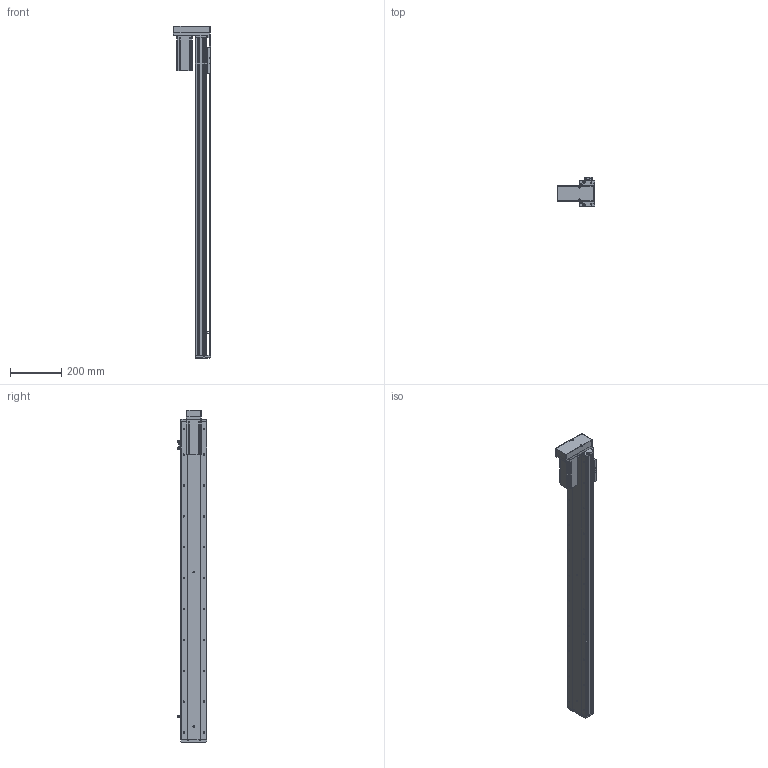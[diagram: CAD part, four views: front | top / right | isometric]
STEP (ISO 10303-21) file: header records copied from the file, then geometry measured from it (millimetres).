
FILE_DESCRIPTION (( 'STEP AP214' ), '1' );
FILE_NAME ('KSD100S-S1050-MD-CM.STEP', '2019-08-30T03:48:13', ( '微软用户' ), ( '微软中国' ), 'SwSTEP 2.0', 'SolidWorks 2014', '' );
FILE_SCHEMA (( 'AUTOMOTIVE_DESIGN' ));
Length unit declared in the file: millimetre
Products named in the file (11): 悵誘欶奻狟殏; 100宽马达安装板连板上下折丝杆同步带; 台达ECMA－C20604AS伺服电机; 覜茼え100遵圉猾敕; U倰嫖萇EEㄜSX672; 100宽防尘板丝杆1050行程; 100遵鎮湛假蚾啣; 100宽滚珠螺姆安装板半封闭; 100遵傷啣; 100宽底板半封闭丝杆1050行程; KSD100S-S1050-MD-CM
Assembly tree (12 placements, depth 2):
  KSD100S-S1050-MD-CM
    100宽底板半封闭丝杆1050行程
    100遵傷啣
    100宽滚珠螺姆安装板半封闭
    100遵鎮湛假蚾啣
    100宽防尘板丝杆1050行程
    U倰嫖萇EEㄜSX672  x3
    覜茼え100遵圉猾敕
    台达ECMA－C20604AS伺服电机
    100宽马达安装板连板上下折丝杆同步带
    悵誘欶奻狟殏
Bounding box: 147 x 113.7 x 1290.5 mm (x, y, z)
Volume: 2931615.4 mm3; surface area: 965210.4 mm2
Topology: 13 solids, 13 shells, 1377 faces, 3896 edges, 2451 vertices
Faces by surface type: cylinder 694, plane 520, cone 163
Entity records: 50217 total; most frequent: CARTESIAN_POINT 10017, DIRECTION 6607, ORIENTED_EDGE 6372, EDGE_CURVE 3186, AXIS2_PLACEMENT_3D 2421, VERTEX_POINT 2075, VECTOR 1765, LINE 1765
